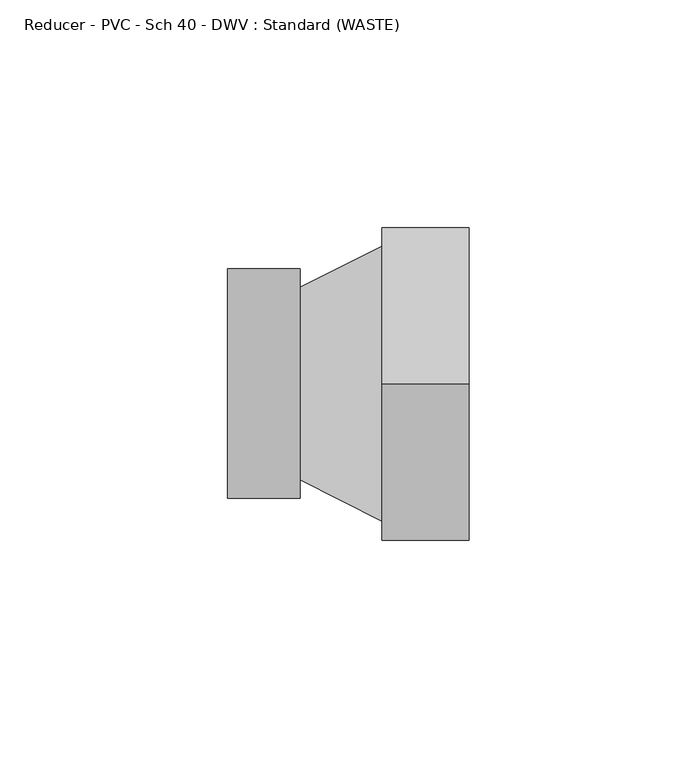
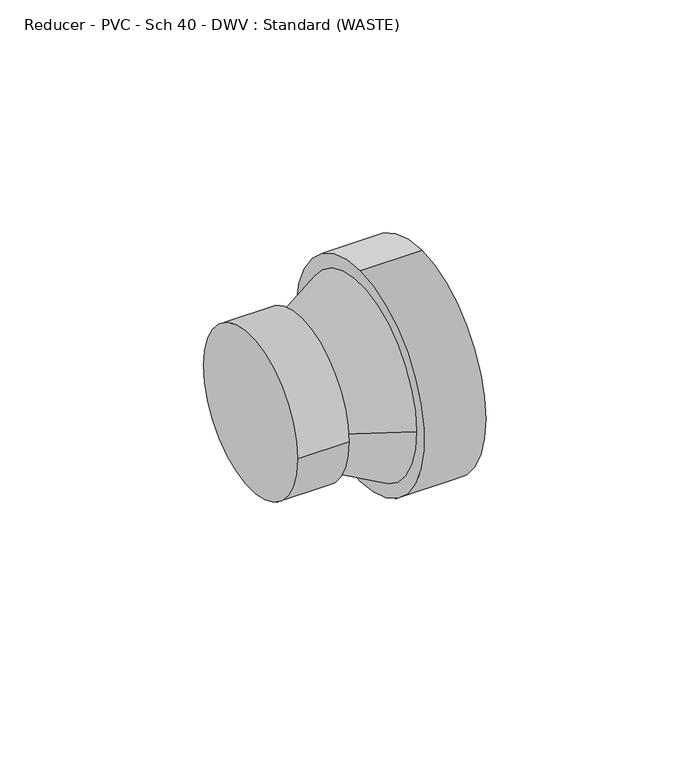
"""IFC4 building model written with IfcOpenShell, lengths in millimetres: pipe fitting geometry, Reducer - PVC - Sch 40 - DWV : Standard (WASTE)."""

from ifc_helpers import new_model, si_unit, frame, origin, place, context, project, spatial, polyline, circle_curve, source, transform, mapped, element, save
from ifc_brep_helpers import plane_surface, cylinder_surface, revolved_surface, advanced_brep


def reducer_pvc_sch_40_dwv_standard_waste_d2176413(model_context):
    return source(origin(), model_context, "Body", "AdvancedBrep", [
        advanced_brep(
        [(0.0, -25.1321094, 0.0), (0.0, 25.1321094, 0.0), (15.875, -25.1321094, 0.0), (15.875, 25.1321094, 0.0), (15.875, 21.0740625, 0.0), (15.875, -21.0740625, 0.0), (33.8335938, 30.1625, 0.0), (33.8335937, -30.1625, 0.0), (33.8335938, 0.0, 34.3154), (33.8335938, 0.0, -34.3154), (52.8835938, 0.0, 34.3154), (52.8835938, 0.0, -34.3154)],
        [
            (0, 1, circle_curve(frame((0.0, 0.0, 0.0), z_axis=(-1.0, 0.0, 0.0), x_axis=(0.0, 1.0, 0.0)), 25.1321094)),
            (1, 0, circle_curve(frame((0.0, 0.0, 0.0), z_axis=(-1.0, 0.0, 0.0), x_axis=(0.0, 1.0, 0.0)), 25.1321094)),
            (2, 3, circle_curve(frame((15.875, 0.0, 0.0), z_axis=(1.0, 0.0, 0.0), x_axis=(0.0, 1.0, 0.0)), 25.1321094)),
            (3, 2, circle_curve(frame((15.875, 0.0, 0.0), z_axis=(1.0, 0.0, 0.0), x_axis=(0.0, 1.0, 0.0)), 25.1321094)),
            (4, 5, circle_curve(frame((15.875, 0.0, 0.0), z_axis=(-1.0, 0.0, 0.0), x_axis=(0.0, -1.0, 0.0)), 21.0740625)),
            (5, 4, circle_curve(frame((15.875, 0.0, 0.0), z_axis=(-1.0, 0.0, 0.0), x_axis=(0.0, 1.0, 0.0)), 21.0740625)),
            (0, 2),
            (3, 1),
            (4, 6),
            (6, 7, circle_curve(frame((33.8335938, 0.0, 0.0), z_axis=(-1.0, 0.0, 0.0), x_axis=(0.0, -1.0, 0.0)), 30.1625)),
            (7, 5),
            (7, 6, circle_curve(frame((33.8335938, 0.0, 0.0), z_axis=(-1.0, 0.0, 0.0), x_axis=(0.0, 1.0, 0.0)), 30.1625)),
            (8, 9, circle_curve(frame((33.8335938, 0.0, 0.0), z_axis=(-1.0, 0.0, 0.0), x_axis=(0.0, 0.0, -1.0)), 34.3154)),
            (9, 8, circle_curve(frame((33.8335938, 0.0, 0.0), z_axis=(-1.0, 0.0, 0.0), x_axis=(0.0, 0.0, -1.0)), 34.3154)),
            (10, 11, circle_curve(frame((52.8835938, 0.0, 0.0), z_axis=(1.0, 0.0, 0.0), x_axis=(0.0, 0.0, -1.0)), 34.3154)),
            (11, 10, circle_curve(frame((52.8835938, 0.0, 0.0), z_axis=(1.0, 0.0, 0.0), x_axis=(0.0, 0.0, -1.0)), 34.3154)),
            (8, 10),
            (11, 9),
        ],
        [
            plane_surface(frame((0.0, 0.0, 0.0), z_axis=(-1.0, 0.0, 0.0), x_axis=(0.0, 0.0, 1.0))),
            plane_surface(frame((15.875, 0.0, 0.0), z_axis=(1.0, 0.0, 0.0), x_axis=(0.0, 0.0, 1.0))),
            cylinder_surface(frame((0.0, 0.0, 0.0), z_axis=(-1.0, 0.0, 0.0), x_axis=(0.0, 1.0, 0.0)), 25.1321094),
            revolved_surface(polyline([(15.874999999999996, 21.074062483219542, 0.0), (33.8335938, 30.1625, 0.0)]), (-25.7669794, 0.0, 0.0), (1.0, 0.0, 0.0)),
            plane_surface(frame((33.8335938, 0.0, 0.0), z_axis=(-1.0, 0.0, 0.0), x_axis=(0.0, 1.0, 0.0))),
            plane_surface(frame((52.8835938, 0.0, 0.0), z_axis=(1.0, 0.0, 0.0), x_axis=(0.0, 1.0, 0.0))),
            cylinder_surface(frame((33.8335938, 0.0, 0.0), z_axis=(-1.0, 0.0, 0.0), x_axis=(0.0, 0.0, -1.0)), 34.3154),
        ],
        [
            (0, [[1, 2]]),
            (1, [[3, 4], [5, 6]]),
            (2, [[-1, 7, -4, 8]]),
            (2, [[-2, -8, -3, -7]]),
            (3, [[9, 10, 11, -5]]),
            (3, [[-9, -6, -11, 12]]),
            (4, [[13, 14], [-10, -12]]),
            (5, [[15, 16]]),
            (6, [[-13, 17, -16, 18]]),
            (6, [[-14, -18, -15, -17]]),
        ],
    ),
        advanced_brep(
        [(0.0, -25.1321094, 0.0), (0.0, 25.1321094, 0.0), (15.875, -25.1321094, 0.0), (15.875, 25.1321094, 0.0), (15.875, 21.0740625, 0.0), (15.875, -21.0740625, 0.0), (33.8335938, 30.1625, 0.0), (33.8335937, -30.1625, 0.0), (33.8335938, 0.0, 34.3154), (33.8335938, 0.0, -34.3154), (52.8835938, 0.0, 34.3154), (52.8835938, 0.0, -34.3154)],
        [
            (0, 1, circle_curve(frame((0.0, 0.0, 0.0), z_axis=(-1.0, 0.0, 0.0), x_axis=(0.0, 1.0, 0.0)), 25.1321094)),
            (1, 0, circle_curve(frame((0.0, 0.0, 0.0), z_axis=(-1.0, 0.0, 0.0), x_axis=(0.0, 1.0, 0.0)), 25.1321094)),
            (2, 3, circle_curve(frame((15.875, 0.0, 0.0), z_axis=(1.0, 0.0, 0.0), x_axis=(0.0, 1.0, 0.0)), 25.1321094)),
            (3, 2, circle_curve(frame((15.875, 0.0, 0.0), z_axis=(1.0, 0.0, 0.0), x_axis=(0.0, 1.0, 0.0)), 25.1321094)),
            (4, 5, circle_curve(frame((15.875, 0.0, 0.0), z_axis=(-1.0, 0.0, 0.0), x_axis=(0.0, -1.0, 0.0)), 21.0740625)),
            (5, 4, circle_curve(frame((15.875, 0.0, 0.0), z_axis=(-1.0, 0.0, 0.0), x_axis=(0.0, 1.0, 0.0)), 21.0740625)),
            (0, 2),
            (3, 1),
            (4, 6),
            (6, 7, circle_curve(frame((33.8335938, 0.0, 0.0), z_axis=(-1.0, 0.0, 0.0), x_axis=(0.0, -1.0, 0.0)), 30.1625)),
            (7, 5),
            (7, 6, circle_curve(frame((33.8335938, 0.0, 0.0), z_axis=(-1.0, 0.0, 0.0), x_axis=(0.0, 1.0, 0.0)), 30.1625)),
            (8, 9, circle_curve(frame((33.8335938, 0.0, 0.0), z_axis=(-1.0, 0.0, 0.0), x_axis=(0.0, 0.0, -1.0)), 34.3154)),
            (9, 8, circle_curve(frame((33.8335938, 0.0, 0.0), z_axis=(-1.0, 0.0, 0.0), x_axis=(0.0, 0.0, -1.0)), 34.3154)),
            (10, 11, circle_curve(frame((52.8835938, 0.0, 0.0), z_axis=(1.0, 0.0, 0.0), x_axis=(0.0, 0.0, -1.0)), 34.3154)),
            (11, 10, circle_curve(frame((52.8835938, 0.0, 0.0), z_axis=(1.0, 0.0, 0.0), x_axis=(0.0, 0.0, -1.0)), 34.3154)),
            (8, 10),
            (11, 9),
        ],
        [
            plane_surface(frame((0.0, 0.0, 0.0), z_axis=(-1.0, 0.0, 0.0), x_axis=(0.0, 0.0, 1.0))),
            plane_surface(frame((15.875, 0.0, 0.0), z_axis=(1.0, 0.0, 0.0), x_axis=(0.0, 0.0, 1.0))),
            cylinder_surface(frame((0.0, 0.0, 0.0), z_axis=(-1.0, 0.0, 0.0), x_axis=(0.0, 1.0, 0.0)), 25.1321094),
            revolved_surface(polyline([(15.874999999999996, 21.074062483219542, 0.0), (33.8335938, 30.1625, 0.0)]), (-25.7669794, 0.0, 0.0), (1.0, 0.0, 0.0)),
            plane_surface(frame((33.8335938, 0.0, 0.0), z_axis=(-1.0, 0.0, 0.0), x_axis=(0.0, 1.0, 0.0))),
            plane_surface(frame((52.8835938, 0.0, 0.0), z_axis=(1.0, 0.0, 0.0), x_axis=(0.0, 1.0, 0.0))),
            cylinder_surface(frame((33.8335938, 0.0, 0.0), z_axis=(-1.0, 0.0, 0.0), x_axis=(0.0, 0.0, -1.0)), 34.3154),
        ],
        [
            (0, [[1, 2]]),
            (1, [[3, 4], [5, 6]]),
            (2, [[-1, 7, -4, 8]]),
            (2, [[-2, -8, -3, -7]]),
            (3, [[9, 10, 11, -5]]),
            (3, [[-9, -6, -11, 12]]),
            (4, [[13, 14], [-10, -12]]),
            (5, [[15, 16]]),
            (6, [[-13, 17, -16, 18]]),
            (6, [[-14, -18, -15, -17]]),
        ],
    ),
    ])


if __name__ == "__main__":
    model = new_model("IFC4")
    model_context = context("Model", 3, world=origin())
    ifc_project = project(units=[si_unit("LENGTHUNIT", "METRE", prefix="MILLI")], contexts=[model_context])
    site = spatial("IfcSite", under=ifc_project)
    building = spatial("IfcBuilding", under=site)
    placement = place(None, origin())
    reducer_pvc_sch_40_dwv_standard_waste_shape = reducer_pvc_sch_40_dwv_standard_waste_d2176413(model_context)
    element("IfcPipeFitting", 1, ObjectType="Reducer - PVC - Sch 40 - DWV : Standard (WASTE)", at=placement, inside=building, context=model_context, shape_type="MappedRepresentation", body=[
        mapped(reducer_pvc_sch_40_dwv_standard_waste_shape, transform((0.0, 0.0, 0.0), x_axis=(1.0, 0.0, 0.0), y_axis=(0.0, 1.0, 0.0), z_axis=(0.0, 0.0, 1.0))),
    ])
    save(model, "model.ifc")
